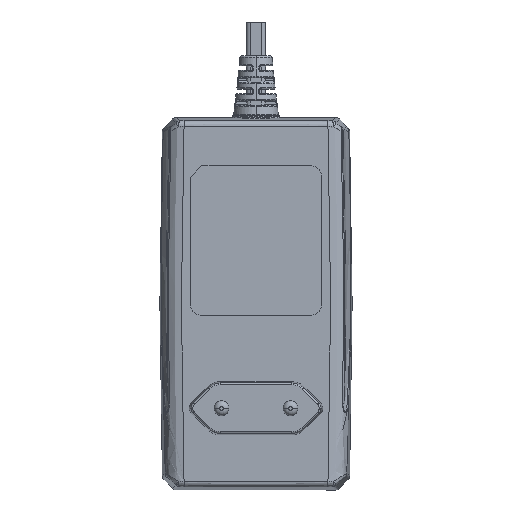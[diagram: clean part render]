
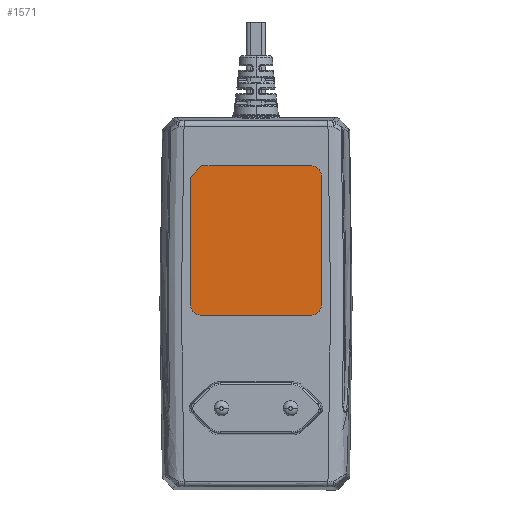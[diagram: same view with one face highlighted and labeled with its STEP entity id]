
A CAD part, front view. The second image highlights one B-rep face of the part: STEP entity #1571.
In plain terms, the highlighted planar face has unit normal (0, -1, 0).
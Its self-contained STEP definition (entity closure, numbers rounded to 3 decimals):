
#437 = CARTESIAN_POINT ( 'NONE',  ( 15., -16.1, -3. ) ) ;
#520 = ORIENTED_EDGE ( 'NONE', *, *, #10649, .T. ) ;
#791 = VECTOR ( 'NONE', #2800, 1000. ) ;
#867 = ORIENTED_EDGE ( 'NONE', *, *, #7087, .T. ) ;
#1056 = CARTESIAN_POINT ( 'NONE',  ( 15., -16.1, -0.5 ) ) ;
#1506 = CARTESIAN_POINT ( 'NONE',  ( 15., -16.1, 37. ) ) ;
#1571 = ADVANCED_FACE ( 'NONE', ( #15590 ), #7785, .F. ) ;
#2800 = DIRECTION ( 'NONE',  ( 0., 0., 1. ) ) ;
#3156 = DIRECTION ( 'NONE',  ( 0., 0., 1. ) ) ;
#3450 = LINE ( 'NONE', #12626, #24928 ) ;
#3722 = CARTESIAN_POINT ( 'NONE',  ( -17.5, -16.1, -0.5 ) ) ;
#4157 = VERTEX_POINT ( 'NONE', #17540 ) ;
#4586 = CARTESIAN_POINT ( 'NONE',  ( -17.5, -16.1, 34. ) ) ;
#4624 = EDGE_CURVE ( 'NONE', #4157, #18926, #3450, .T. ) ;
#5594 = VERTEX_POINT ( 'NONE', #1506 ) ;
#5753 = AXIS2_PLACEMENT_3D ( 'NONE', #24461, #11982, #26520 ) ;
#5871 = CARTESIAN_POINT ( 'NONE',  ( -17.5, -16.1, 34. ) ) ;
#6305 = LINE ( 'NONE', #15273, #791 ) ;
#6462 = EDGE_CURVE ( 'NONE', #22967, #15129, #6305, .T. ) ;
#7087 = EDGE_CURVE ( 'NONE', #5594, #26883, #14410, .T. ) ;
#7396 = ORIENTED_EDGE ( 'NONE', *, *, #14524, .T. ) ;
#7701 = CIRCLE ( 'NONE', #15067, 2.5 ) ;
#7785 = PLANE ( 'NONE',  #5753 ) ;
#7827 = VECTOR ( 'NONE', #21247, 1000. ) ;
#9078 = CARTESIAN_POINT ( 'NONE',  ( 17.5, -16.1, 34.5 ) ) ;
#9311 = AXIS2_PLACEMENT_3D ( 'NONE', #24858, #12371, #26931 ) ;
#9424 = CIRCLE ( 'NONE', #21668, 2.5 ) ;
#9556 = ORIENTED_EDGE ( 'NONE', *, *, #15824, .T. ) ;
#10539 = DIRECTION ( 'NONE',  ( 1., 0., 0. ) ) ;
#10649 = EDGE_CURVE ( 'NONE', #12403, #12207, #23637, .T. ) ;
#10804 = DIRECTION ( 'NONE',  ( -1., 0., 0. ) ) ;
#11949 = DIRECTION ( 'NONE',  ( 0., -1., 0. ) ) ;
#11982 = DIRECTION ( 'NONE',  ( 0., 1., 0. ) ) ;
#12011 = ORIENTED_EDGE ( 'NONE', *, *, #6462, .T. ) ;
#12207 = VERTEX_POINT ( 'NONE', #25778 ) ;
#12371 = DIRECTION ( 'NONE',  ( 0., -1., 0. ) ) ;
#12403 = VERTEX_POINT ( 'NONE', #5871 ) ;
#12530 = VECTOR ( 'NONE', #16006, 1000. ) ;
#12626 = CARTESIAN_POINT ( 'NONE',  ( 15., -16.1, -3. ) ) ;
#13670 = CARTESIAN_POINT ( 'NONE',  ( 17.5, -16.1, -0.5 ) ) ;
#14410 = LINE ( 'NONE', #21204, #24852 ) ;
#14524 = EDGE_CURVE ( 'NONE', #26883, #12403, #18921, .T. ) ;
#15067 = AXIS2_PLACEMENT_3D ( 'NONE', #1056, #15622, #3156 ) ;
#15129 = VERTEX_POINT ( 'NONE', #9078 ) ;
#15273 = CARTESIAN_POINT ( 'NONE',  ( 17.5, -16.1, -0.5 ) ) ;
#15590 = FACE_OUTER_BOUND ( 'NONE', #24501, .T. ) ;
#15622 = DIRECTION ( 'NONE',  ( 0., -1., 0. ) ) ;
#15824 = EDGE_CURVE ( 'NONE', #12207, #4157, #9424, .T. ) ;
#16006 = DIRECTION ( 'NONE',  ( 0., 0., -1. ) ) ;
#17540 = CARTESIAN_POINT ( 'NONE',  ( -15., -16.1, -3. ) ) ;
#18871 = ORIENTED_EDGE ( 'NONE', *, *, #4624, .T. ) ;
#18921 = LINE ( 'NONE', #4586, #7827 ) ;
#18926 = VERTEX_POINT ( 'NONE', #437 ) ;
#19048 = EDGE_CURVE ( 'NONE', #18926, #22967, #7701, .T. ) ;
#20693 = EDGE_CURVE ( 'NONE', #15129, #5594, #26831, .T. ) ;
#21204 = CARTESIAN_POINT ( 'NONE',  ( 15., -16.1, 37. ) ) ;
#21247 = DIRECTION ( 'NONE',  ( -0.707, 0., -0.707 ) ) ;
#21388 = ORIENTED_EDGE ( 'NONE', *, *, #19048, .T. ) ;
#21668 = AXIS2_PLACEMENT_3D ( 'NONE', #24429, #11949, #26491 ) ;
#22212 = ORIENTED_EDGE ( 'NONE', *, *, #20693, .T. ) ;
#22967 = VERTEX_POINT ( 'NONE', #13670 ) ;
#23637 = LINE ( 'NONE', #3722, #12530 ) ;
#24429 = CARTESIAN_POINT ( 'NONE',  ( -15., -16.1, -0.5 ) ) ;
#24461 = CARTESIAN_POINT ( 'NONE',  ( 15., -16.1, 34.5 ) ) ;
#24501 = EDGE_LOOP ( 'NONE', ( #22212, #867, #7396, #520, #9556, #18871, #21388, #12011 ) ) ;
#24852 = VECTOR ( 'NONE', #10804, 1000. ) ;
#24858 = CARTESIAN_POINT ( 'NONE',  ( 15., -16.1, 34.5 ) ) ;
#24928 = VECTOR ( 'NONE', #10539, 1000. ) ;
#25778 = CARTESIAN_POINT ( 'NONE',  ( -17.5, -16.1, -0.5 ) ) ;
#26491 = DIRECTION ( 'NONE',  ( 0., 0., 1. ) ) ;
#26512 = CARTESIAN_POINT ( 'NONE',  ( -14.5, -16.1, 37. ) ) ;
#26520 = DIRECTION ( 'NONE',  ( 0., 0., 1. ) ) ;
#26831 = CIRCLE ( 'NONE', #9311, 2.5 ) ;
#26883 = VERTEX_POINT ( 'NONE', #26512 ) ;
#26931 = DIRECTION ( 'NONE',  ( 0., 0., 1. ) ) ;
